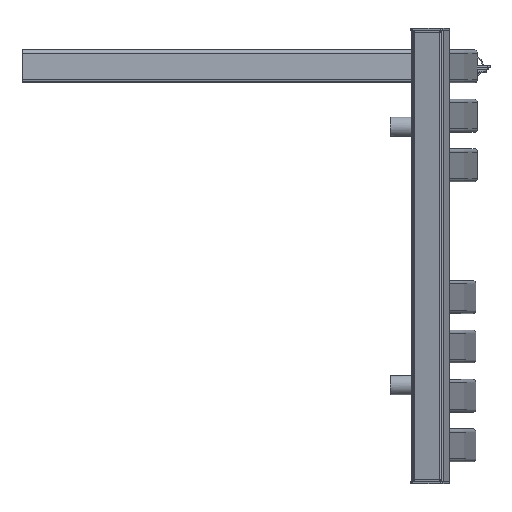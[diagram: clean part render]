
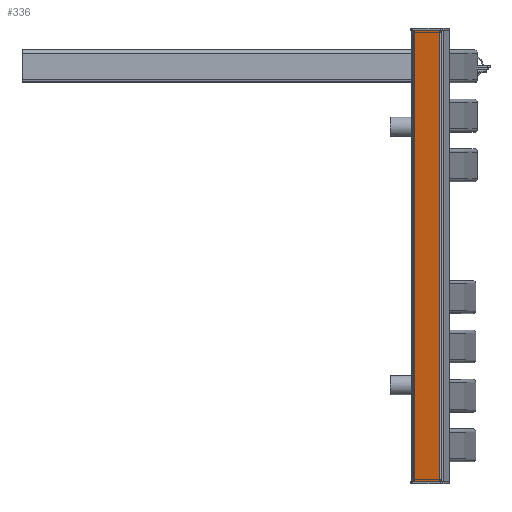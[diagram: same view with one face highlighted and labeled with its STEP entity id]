
A CAD part, left-side view. The second image highlights one B-rep face of the part: STEP entity #336.
In plain terms, the highlighted planar face has unit normal (-0.97, 0.243, 0) as drawn and (0, 0, -1) by its records, which use the part's own axes.
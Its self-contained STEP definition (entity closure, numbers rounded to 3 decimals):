
#336 = ADVANCED_FACE( '', ( #717 ), #718, .T. );
#717 = FACE_OUTER_BOUND( '', #1159, .T. );
#718 = PLANE( '', #1160 );
#1159 = EDGE_LOOP( '', ( #2065, #2066, #2067, #2068 ) );
#1160 = AXIS2_PLACEMENT_3D( '', #2069, #2070, #2071 );
#2065 = ORIENTED_EDGE( '', *, *, #2810, .F. );
#2066 = ORIENTED_EDGE( '', *, *, #2835, .T. );
#2067 = ORIENTED_EDGE( '', *, *, #2836, .T. );
#2068 = ORIENTED_EDGE( '', *, *, #2837, .T. );
#2069 = CARTESIAN_POINT( '', ( -15., 411., -15. ) );
#2070 = DIRECTION( '', ( 0., 0., -1. ) );
#2071 = DIRECTION( '', ( -1., 0., 0. ) );
#2810 = EDGE_CURVE( '', #3455, #3457, #3458, .T. );
#2835 = EDGE_CURVE( '', #3455, #3487, #3488, .F. );
#2836 = EDGE_CURVE( '', #3487, #3489, #3490, .T. );
#2837 = EDGE_CURVE( '', #3489, #3457, #3491, .T. );
#3455 = VERTEX_POINT( '', #4276 );
#3457 = VERTEX_POINT( '', #4278 );
#3458 = LINE( '', #4279, #4280 );
#3487 = VERTEX_POINT( '', #4316 );
#3488 = LINE( '', #4317, #4318 );
#3489 = VERTEX_POINT( '', #4319 );
#3490 = LINE( '', #4320, #4321 );
#3491 = LINE( '', #4322, #4323 );
#4276 = CARTESIAN_POINT( '', ( -12., 0., -15. ) );
#4278 = CARTESIAN_POINT( '', ( 12., 0., -15. ) );
#4279 = CARTESIAN_POINT( '', ( -15., 0., -15. ) );
#4280 = VECTOR( '', #4931, 1000. );
#4316 = CARTESIAN_POINT( '', ( -12., 411., -15. ) );
#4317 = CARTESIAN_POINT( '', ( -12., 411., -15. ) );
#4318 = VECTOR( '', #4960, 1000. );
#4319 = CARTESIAN_POINT( '', ( 12., 411., -15. ) );
#4320 = CARTESIAN_POINT( '', ( -15., 411., -15. ) );
#4321 = VECTOR( '', #4961, 1000. );
#4322 = CARTESIAN_POINT( '', ( 12., 411., -15. ) );
#4323 = VECTOR( '', #4962, 1000. );
#4931 = DIRECTION( '', ( 1., 0., 0. ) );
#4960 = DIRECTION( '', ( 0., -1., 0. ) );
#4961 = DIRECTION( '', ( 1., 0., 0. ) );
#4962 = DIRECTION( '', ( 0., -1., 0. ) );
